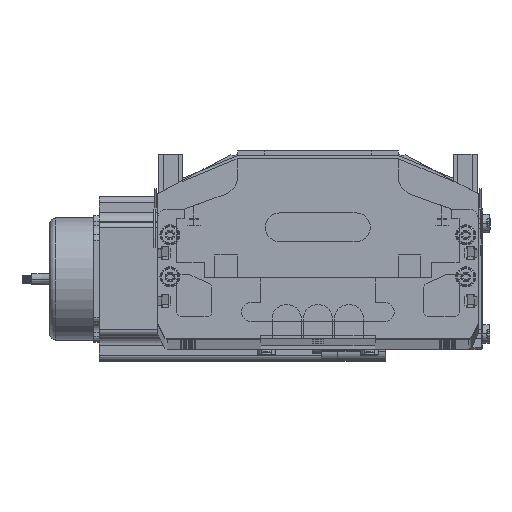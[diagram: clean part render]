
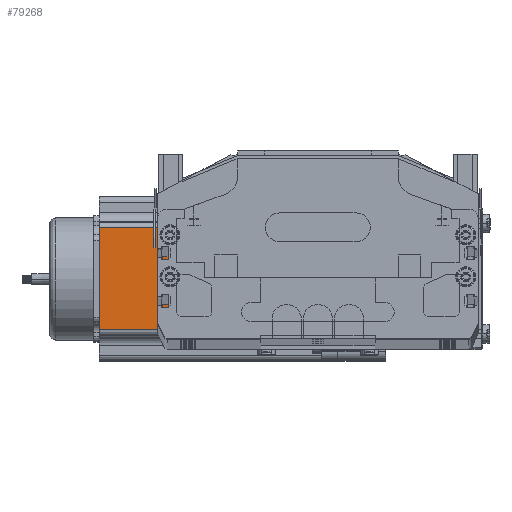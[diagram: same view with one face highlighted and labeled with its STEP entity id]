
A CAD part, top view. The second image highlights one B-rep face of the part: STEP entity #79268.
In plain terms, the highlighted planar face has unit normal (0, 0, 1) as drawn and (0, -1, 0) by its records, which use the part's own axes.
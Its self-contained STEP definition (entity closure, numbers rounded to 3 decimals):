
#27711 = VECTOR ( 'NONE', #27988, 1000. ) ;
#27713 = CARTESIAN_POINT ( 'NONE',  ( 0., 0., 116.5 ) ) ;
#27714 = LINE ( 'NONE', #27713, #27711 ) ;
#27717 = DIRECTION ( 'NONE',  ( 0., 0., 1. ) ) ;
#27718 = VECTOR ( 'NONE', #27717, 1000. ) ;
#27720 = CARTESIAN_POINT ( 'NONE',  ( 69.74, 0., 116.5 ) ) ;
#27726 = DIRECTION ( 'NONE',  ( 0., 0., 1. ) ) ;
#27727 = DIRECTION ( 'NONE',  ( 0., 1., 0. ) ) ;
#27729 = LINE ( 'NONE', #27720, #27718 ) ;
#27737 = CARTESIAN_POINT ( 'NONE',  ( 69.74, 0., 0. ) ) ;
#27739 = PLANE ( 'NONE',  #27888 ) ;
#27886 = FACE_OUTER_BOUND ( 'NONE', #79292, .T. ) ;
#27888 = AXIS2_PLACEMENT_3D ( 'NONE', #28026, #27727, #27726 ) ;
#27973 = CARTESIAN_POINT ( 'NONE',  ( 69.74, 0., 116.5 ) ) ;
#27975 = DIRECTION ( 'NONE',  ( 1., 0., 0. ) ) ;
#27977 = VECTOR ( 'NONE', #27975, 1000. ) ;
#27978 = CARTESIAN_POINT ( 'NONE',  ( 0., 0., 0. ) ) ;
#27981 = LINE ( 'NONE', #27978, #27977 ) ;
#27985 = CARTESIAN_POINT ( 'NONE',  ( 16.16, 0., 116.5 ) ) ;
#27988 = DIRECTION ( 'NONE',  ( 1., 0., 0. ) ) ;
#28019 = DIRECTION ( 'NONE',  ( 0., 0., -1. ) ) ;
#28020 = VECTOR ( 'NONE', #28019, 1000. ) ;
#28021 = CARTESIAN_POINT ( 'NONE',  ( 16.16, 0., 116.5 ) ) ;
#28023 = LINE ( 'NONE', #28021, #28020 ) ;
#28026 = CARTESIAN_POINT ( 'NONE',  ( 0., 0., 116.5 ) ) ;
#32764 = CARTESIAN_POINT ( 'NONE',  ( 16.16, 0., 0. ) ) ;
#78610 = VERTEX_POINT ( 'NONE', #32764 ) ;
#79244 = EDGE_CURVE ( 'NONE', #79295, #78610, #28023, .T. ) ;
#79268 = ADVANCED_FACE ( 'NONE', ( #27886 ), #27739, .F. ) ;
#79271 = VERTEX_POINT ( 'NONE', #27737 ) ;
#79273 = ORIENTED_EDGE ( 'NONE', *, *, #79279, .T. ) ;
#79277 = ORIENTED_EDGE ( 'NONE', *, *, #79293, .T. ) ;
#79279 = EDGE_CURVE ( 'NONE', #79271, #79296, #27729, .T. ) ;
#79284 = ORIENTED_EDGE ( 'NONE', *, *, #79286, .F. ) ;
#79286 = EDGE_CURVE ( 'NONE', #79295, #79296, #27714, .T. ) ;
#79292 = EDGE_LOOP ( 'NONE', ( #79277, #79273, #79284, #79299 ) ) ;
#79293 = EDGE_CURVE ( 'NONE', #78610, #79271, #27981, .T. ) ;
#79295 = VERTEX_POINT ( 'NONE', #27985 ) ;
#79296 = VERTEX_POINT ( 'NONE', #27973 ) ;
#79299 = ORIENTED_EDGE ( 'NONE', *, *, #79244, .T. ) ;
